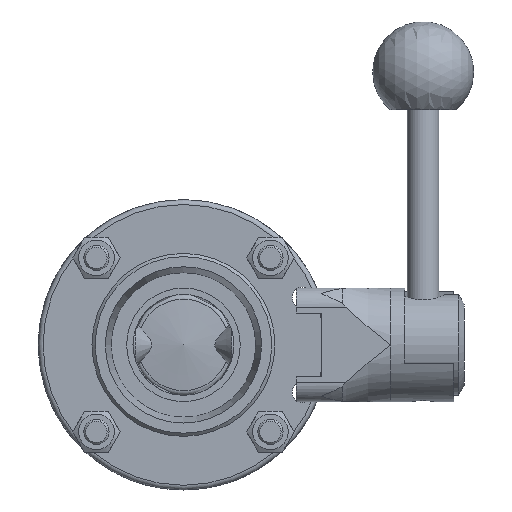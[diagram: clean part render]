
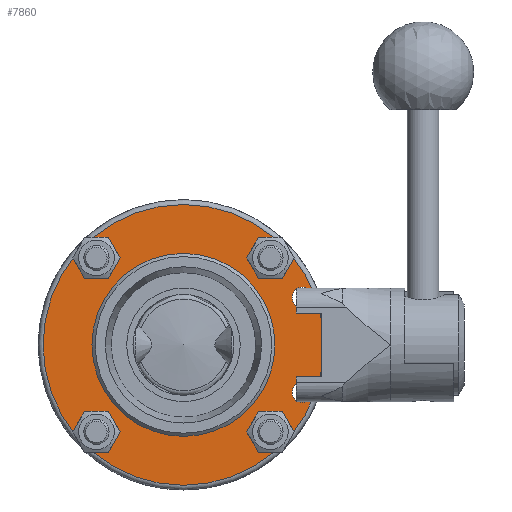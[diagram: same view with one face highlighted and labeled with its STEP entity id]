
A CAD part, front view. The second image highlights one B-rep face of the part: STEP entity #7860.
In plain terms, the highlighted planar face has unit normal (0, -1, 0) as drawn and (1, 0, 0) by its records, which use the part's own axes.
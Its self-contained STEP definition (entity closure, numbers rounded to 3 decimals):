
#7243=CARTESIAN_POINT('',(-8.768,35.083,40.95));
#7244=VERTEX_POINT('',#7243);
#7245=CARTESIAN_POINT('',(-8.768,35.083,37.7));
#7246=DIRECTION('',(-1.0,0.0,0.0));
#7247=DIRECTION('',(0.0,0.0,-1.0));
#7248=AXIS2_PLACEMENT_3D('',#7245,#7246,#7247);
#7249=CIRCLE('',#7248,3.25);
#7250=EDGE_CURVE('',#7244,#7244,#7249,.T.);
#7271=CARTESIAN_POINT('',(-8.768,5.083,40.95));
#7272=VERTEX_POINT('',#7271);
#7273=CARTESIAN_POINT('',(-8.768,5.083,37.7));
#7274=DIRECTION('',(-1.0,0.0,0.0));
#7275=DIRECTION('',(0.0,0.0,-1.0));
#7276=AXIS2_PLACEMENT_3D('',#7273,#7274,#7275);
#7277=CIRCLE('',#7276,3.25);
#7278=EDGE_CURVE('',#7272,#7272,#7277,.T.);
#7529=CARTESIAN_POINT('',(-8.768,-11.744,27.577));
#7530=VERTEX_POINT('',#7529);
#7531=CARTESIAN_POINT('',(-8.768,-7.494,27.577));
#7532=DIRECTION('',(-1.0,0.0,0.0));
#7533=DIRECTION('',(0.0,1.0,0.0));
#7534=AXIS2_PLACEMENT_3D('',#7531,#7532,#7533);
#7535=CIRCLE('',#7534,4.25);
#7536=EDGE_CURVE('',#7530,#7530,#7535,.T.);
#7549=CARTESIAN_POINT('',(-8.768,-7.494,-31.827));
#7550=VERTEX_POINT('',#7549);
#7551=CARTESIAN_POINT('',(-8.768,-7.494,-27.577));
#7552=DIRECTION('',(-1.0,0.0,0.0));
#7553=DIRECTION('',(0.0,0.0,1.0));
#7554=AXIS2_PLACEMENT_3D('',#7551,#7552,#7553);
#7555=CIRCLE('',#7554,4.25);
#7556=EDGE_CURVE('',#7550,#7550,#7555,.T.);
#7569=CARTESIAN_POINT('',(-8.768,51.91,-27.577));
#7570=VERTEX_POINT('',#7569);
#7571=CARTESIAN_POINT('',(-8.768,47.66,-27.577));
#7572=DIRECTION('',(-1.0,0.0,0.0));
#7573=DIRECTION('',(0.0,-1.0,0.0));
#7574=AXIS2_PLACEMENT_3D('',#7571,#7572,#7573);
#7575=CIRCLE('',#7574,4.25);
#7576=EDGE_CURVE('',#7570,#7570,#7575,.T.);
#7589=CARTESIAN_POINT('',(-8.768,47.66,31.827));
#7590=VERTEX_POINT('',#7589);
#7591=CARTESIAN_POINT('',(-8.768,47.66,27.577));
#7592=DIRECTION('',(-1.0,0.0,0.0));
#7593=DIRECTION('',(0.0,0.0,-1.0));
#7594=AXIS2_PLACEMENT_3D('',#7591,#7592,#7593);
#7595=CIRCLE('',#7594,4.25);
#7596=EDGE_CURVE('',#7590,#7590,#7595,.T.);
#7788=CARTESIAN_POINT('',(-8.768,-8.917,0.0));
#7789=VERTEX_POINT('',#7788);
#7790=CARTESIAN_POINT('',(-8.768,20.083,0.0));
#7791=DIRECTION('',(-1.0,0.0,0.0));
#7792=DIRECTION('',(0.0,-1.0,0.0));
#7793=AXIS2_PLACEMENT_3D('',#7790,#7791,#7792);
#7794=CIRCLE('',#7793,29.0);
#7795=EDGE_CURVE('',#7789,#7789,#7794,.T.);
#7808=CARTESIAN_POINT('',(-8.768,-24.417,0.0));
#7809=VERTEX_POINT('',#7808);
#7810=CARTESIAN_POINT('',(-8.768,20.083,0.0));
#7811=DIRECTION('',(-1.0,0.0,0.0));
#7812=DIRECTION('',(0.0,1.0,0.0));
#7813=AXIS2_PLACEMENT_3D('',#7810,#7811,#7812);
#7814=CIRCLE('',#7813,44.5);
#7815=EDGE_CURVE('',#7809,#7809,#7814,.T.);
#7831=CARTESIAN_POINT('',(-8.768,-17.417,0.0));
#7832=DIRECTION('',(1.0,0.0,0.0));
#7833=DIRECTION('',(0.0,0.0,-1.0));
#7834=AXIS2_PLACEMENT_3D('',#7831,#7832,#7833);
#7835=PLANE('',#7834);
#7836=ORIENTED_EDGE('',*,*,#7815,.F.);
#7837=EDGE_LOOP('',(#7836));
#7838=FACE_OUTER_BOUND('',#7837,.T.);
#7839=ORIENTED_EDGE('',*,*,#7250,.T.);
#7840=EDGE_LOOP('',(#7839));
#7841=FACE_BOUND('',#7840,.T.);
#7842=ORIENTED_EDGE('',*,*,#7278,.T.);
#7843=EDGE_LOOP('',(#7842));
#7844=FACE_BOUND('',#7843,.T.);
#7845=ORIENTED_EDGE('',*,*,#7536,.T.);
#7846=EDGE_LOOP('',(#7845));
#7847=FACE_BOUND('',#7846,.T.);
#7848=ORIENTED_EDGE('',*,*,#7556,.T.);
#7849=EDGE_LOOP('',(#7848));
#7850=FACE_BOUND('',#7849,.T.);
#7851=ORIENTED_EDGE('',*,*,#7576,.T.);
#7852=EDGE_LOOP('',(#7851));
#7853=FACE_BOUND('',#7852,.T.);
#7854=ORIENTED_EDGE('',*,*,#7596,.T.);
#7855=EDGE_LOOP('',(#7854));
#7856=FACE_BOUND('',#7855,.T.);
#7857=ORIENTED_EDGE('',*,*,#7795,.T.);
#7858=EDGE_LOOP('',(#7857));
#7859=FACE_BOUND('',#7858,.T.);
#7860=ADVANCED_FACE('',(#7838,#7841,#7844,#7847,#7850,#7853,#7856,#7859),#7835,.T.);
